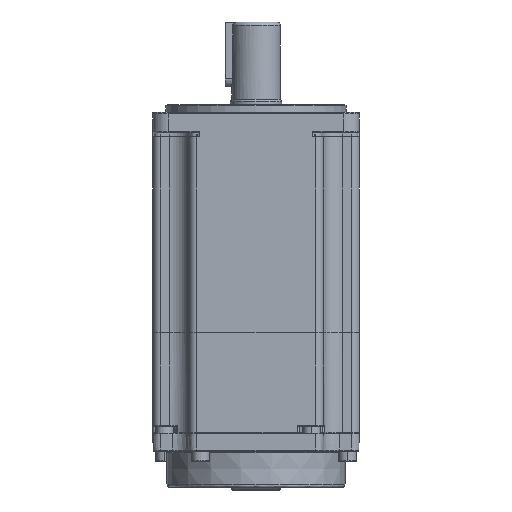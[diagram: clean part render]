
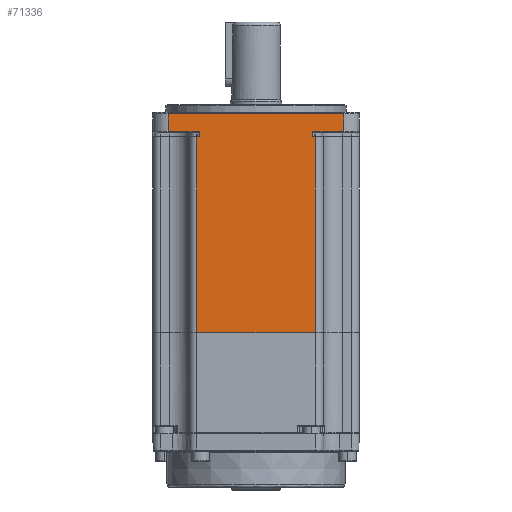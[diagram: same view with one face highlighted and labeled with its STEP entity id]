
A CAD part, front view. The second image highlights one B-rep face of the part: STEP entity #71336.
In plain terms, the highlighted planar face has unit normal (0, -1, 0).
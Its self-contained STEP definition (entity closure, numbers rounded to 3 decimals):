
#2036 = DIRECTION ( 'NONE',  ( -1., 0., 0. ) ) ;
#2889 = LINE ( 'NONE', #102769, #9399 ) ;
#4070 = VECTOR ( 'NONE', #78919, 1000. ) ;
#6076 = LINE ( 'NONE', #21527, #83093 ) ;
#8792 = DIRECTION ( 'NONE',  ( 0., 0., 1. ) ) ;
#9371 = ORIENTED_EDGE ( 'NONE', *, *, #63716, .T. ) ;
#9399 = VECTOR ( 'NONE', #113295, 1000. ) ;
#10732 = ORIENTED_EDGE ( 'NONE', *, *, #102711, .T. ) ;
#11316 = ORIENTED_EDGE ( 'NONE', *, *, #84138, .T. ) ;
#14567 = LINE ( 'NONE', #77430, #35898 ) ;
#15064 = VERTEX_POINT ( 'NONE', #37173 ) ;
#15596 = LINE ( 'NONE', #115789, #64731 ) ;
#15748 = ORIENTED_EDGE ( 'NONE', *, *, #86960, .T. ) ;
#16135 = CARTESIAN_POINT ( 'NONE',  ( 37.746, -44.704, 42.75 ) ) ;
#16980 = CARTESIAN_POINT ( 'NONE',  ( -36.254, -44.704, 131.25 ) ) ;
#17941 = AXIS2_PLACEMENT_3D ( 'NONE', #22633, #64733, #2036 ) ;
#18604 = CARTESIAN_POINT ( 'NONE',  ( -36.254, -44.704, 120.75 ) ) ;
#19250 = VERTEX_POINT ( 'NONE', #37830 ) ;
#19389 = EDGE_CURVE ( 'NONE', #75874, #19250, #2889, .T. ) ;
#19837 = ORIENTED_EDGE ( 'NONE', *, *, #93566, .T. ) ;
#21527 = CARTESIAN_POINT ( 'NONE',  ( 37.746, -44.704, 118.75 ) ) ;
#22633 = CARTESIAN_POINT ( 'NONE',  ( 37.746, -44.704, 131.25 ) ) ;
#23042 = VERTEX_POINT ( 'NONE', #18604 ) ;
#24491 = EDGE_CURVE ( 'NONE', #15064, #61047, #31895, .T. ) ;
#26673 = EDGE_CURVE ( 'NONE', #65236, #61047, #45506, .T. ) ;
#27538 = DIRECTION ( 'NONE',  ( 0., 0., -1. ) ) ;
#27640 = ORIENTED_EDGE ( 'NONE', *, *, #24491, .F. ) ;
#31895 = LINE ( 'NONE', #16135, #4070 ) ;
#33815 = VECTOR ( 'NONE', #27538, 1000. ) ;
#35142 = CARTESIAN_POINT ( 'NONE',  ( 19.746, -44.704, 131.25 ) ) ;
#35898 = VECTOR ( 'NONE', #65973, 1000. ) ;
#36266 = EDGE_CURVE ( 'NONE', #15064, #119785, #131892, .T. ) ;
#37173 = CARTESIAN_POINT ( 'NONE',  ( 20.746, -44.704, 42.75 ) ) ;
#37573 = ORIENTED_EDGE ( 'NONE', *, *, #94229, .T. ) ;
#37830 = CARTESIAN_POINT ( 'NONE',  ( -24.254, -44.704, 118.75 ) ) ;
#40363 = LINE ( 'NONE', #16980, #33815 ) ;
#43393 = EDGE_CURVE ( 'NONE', #119785, #46337, #98241, .T. ) ;
#44533 = CARTESIAN_POINT ( 'NONE',  ( 31.746, -44.704, 120.75 ) ) ;
#45506 = LINE ( 'NONE', #89314, #73368 ) ;
#46337 = VERTEX_POINT ( 'NONE', #87365 ) ;
#48944 = ORIENTED_EDGE ( 'NONE', *, *, #100758, .T. ) ;
#55075 = VERTEX_POINT ( 'NONE', #98446 ) ;
#57237 = EDGE_LOOP ( 'NONE', ( #27640, #60185, #124104, #10732, #19837, #48944, #11316, #15748, #37573, #58761, #9371, #119880 ) ) ;
#58761 = ORIENTED_EDGE ( 'NONE', *, *, #19389, .T. ) ;
#60185 = ORIENTED_EDGE ( 'NONE', *, *, #36266, .T. ) ;
#61047 = VERTEX_POINT ( 'NONE', #100796 ) ;
#63716 = EDGE_CURVE ( 'NONE', #19250, #65236, #6076, .T. ) ;
#64731 = VECTOR ( 'NONE', #116248, 1000. ) ;
#64733 = DIRECTION ( 'NONE',  ( 0., 1., 0. ) ) ;
#65236 = VERTEX_POINT ( 'NONE', #89467 ) ;
#65973 = DIRECTION ( 'NONE',  ( 0., 0., 1. ) ) ;
#70697 = CARTESIAN_POINT ( 'NONE',  ( 37.746, -44.704, 120.75 ) ) ;
#71336 = ADVANCED_FACE ( 'NONE', ( #120391 ), #127476, .F. ) ;
#73368 = VECTOR ( 'NONE', #99811, 1000. ) ;
#73890 = CARTESIAN_POINT ( 'NONE',  ( 20.746, -44.704, 118.75 ) ) ;
#75874 = VERTEX_POINT ( 'NONE', #100944 ) ;
#76041 = LINE ( 'NONE', #109714, #82581 ) ;
#76960 = CARTESIAN_POINT ( 'NONE',  ( 31.746, -44.704, 127.65 ) ) ;
#77430 = CARTESIAN_POINT ( 'NONE',  ( 31.746, -44.704, 131.25 ) ) ;
#78919 = DIRECTION ( 'NONE',  ( -1., 0., 0. ) ) ;
#82581 = VECTOR ( 'NONE', #120700, 1000. ) ;
#83093 = VECTOR ( 'NONE', #104839, 1000. ) ;
#84138 = EDGE_CURVE ( 'NONE', #99260, #55075, #76041, .T. ) ;
#86960 = EDGE_CURVE ( 'NONE', #55075, #23042, #40363, .T. ) ;
#87365 = CARTESIAN_POINT ( 'NONE',  ( 19.746, -44.704, 118.75 ) ) ;
#89314 = CARTESIAN_POINT ( 'NONE',  ( -25.254, -44.704, 131.25 ) ) ;
#89467 = CARTESIAN_POINT ( 'NONE',  ( -25.254, -44.704, 118.75 ) ) ;
#93566 = EDGE_CURVE ( 'NONE', #104751, #118363, #135813, .T. ) ;
#94229 = EDGE_CURVE ( 'NONE', #23042, #75874, #15596, .T. ) ;
#94938 = VECTOR ( 'NONE', #104400, 1000. ) ;
#98241 = LINE ( 'NONE', #135502, #94938 ) ;
#98446 = CARTESIAN_POINT ( 'NONE',  ( -36.254, -44.704, 127.65 ) ) ;
#99260 = VERTEX_POINT ( 'NONE', #76960 ) ;
#99811 = DIRECTION ( 'NONE',  ( 0., 0., -1. ) ) ;
#100758 = EDGE_CURVE ( 'NONE', #118363, #99260, #14567, .T. ) ;
#100796 = CARTESIAN_POINT ( 'NONE',  ( -25.254, -44.704, 42.75 ) ) ;
#100944 = CARTESIAN_POINT ( 'NONE',  ( -24.254, -44.704, 120.75 ) ) ;
#102711 = EDGE_CURVE ( 'NONE', #46337, #104751, #120792, .T. ) ;
#102769 = CARTESIAN_POINT ( 'NONE',  ( -24.254, -44.704, 131.25 ) ) ;
#104400 = DIRECTION ( 'NONE',  ( -1., 0., 0. ) ) ;
#104751 = VERTEX_POINT ( 'NONE', #133280 ) ;
#104839 = DIRECTION ( 'NONE',  ( -1., 0., 0. ) ) ;
#109714 = CARTESIAN_POINT ( 'NONE',  ( -36.254, -44.704, 127.65 ) ) ;
#112537 = VECTOR ( 'NONE', #122899, 1000. ) ;
#113295 = DIRECTION ( 'NONE',  ( 0., 0., -1. ) ) ;
#115789 = CARTESIAN_POINT ( 'NONE',  ( -24.254, -44.704, 120.75 ) ) ;
#116248 = DIRECTION ( 'NONE',  ( 1., 0., 0. ) ) ;
#117535 = VECTOR ( 'NONE', #118938, 1000. ) ;
#118363 = VERTEX_POINT ( 'NONE', #44533 ) ;
#118938 = DIRECTION ( 'NONE',  ( 0., 0., 1. ) ) ;
#119785 = VERTEX_POINT ( 'NONE', #73890 ) ;
#119880 = ORIENTED_EDGE ( 'NONE', *, *, #26673, .T. ) ;
#120391 = FACE_OUTER_BOUND ( 'NONE', #57237, .T. ) ;
#120700 = DIRECTION ( 'NONE',  ( -1., 0., 0. ) ) ;
#120792 = LINE ( 'NONE', #35142, #117535 ) ;
#122899 = DIRECTION ( 'NONE',  ( 1., 0., 0. ) ) ;
#124104 = ORIENTED_EDGE ( 'NONE', *, *, #43393, .T. ) ;
#127476 = PLANE ( 'NONE',  #17941 ) ;
#128647 = VECTOR ( 'NONE', #8792, 1000. ) ;
#131892 = LINE ( 'NONE', #134191, #128647 ) ;
#133280 = CARTESIAN_POINT ( 'NONE',  ( 19.746, -44.704, 120.75 ) ) ;
#134191 = CARTESIAN_POINT ( 'NONE',  ( 20.746, -44.704, 131.25 ) ) ;
#135502 = CARTESIAN_POINT ( 'NONE',  ( 37.746, -44.704, 118.75 ) ) ;
#135813 = LINE ( 'NONE', #70697, #112537 ) ;
